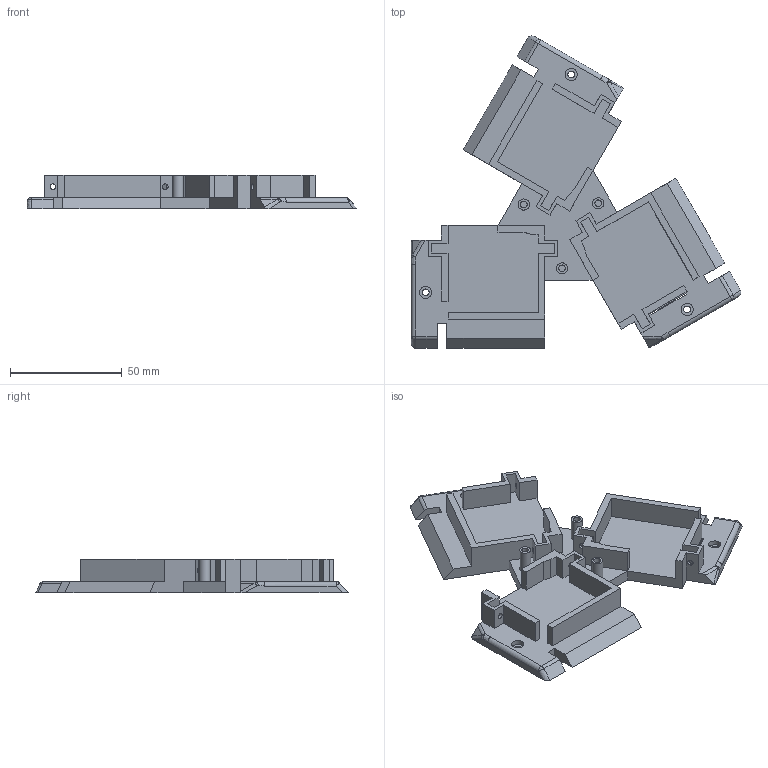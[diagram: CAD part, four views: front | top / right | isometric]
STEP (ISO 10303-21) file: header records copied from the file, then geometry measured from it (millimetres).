
FILE_DESCRIPTION(('FreeCAD Model'),'2;1');
FILE_NAME('Open CASCADE Shape Model','2026-09-16T10:29:49',('Author'),( ''),'Open CASCADE STEP processor 7.8','FreeCAD','Unknown');
FILE_SCHEMA(('AUTOMOTIVE_DESIGN { 1 0 10303 214 1 1 1 1 }'));
Length unit declared in the file: millimetre
Products named in the file (1): Body
Bounding box: 147.9 x 139.96 x 15 mm (x, y, z)
Volume: 63619.5 mm3; surface area: 34811.6 mm2
Topology: 1 solids, 1 shells, 186 faces, 504 edges, 326 vertices
Faces by surface type: plane 129, bspline 30, cylinder 27
Full cylindrical faces by diameter (mm): 2.5 x12, 3 x6, 5 x3, 5.45 x3
Entity records: 8071 total; most frequent: CARTESIAN_POINT 3557, ORIENTED_EDGE 1002, DIRECTION 788, EDGE_CURVE 501, LINE 372, VECTOR 372, VERTEX_POINT 326, FACE_BOUND 227
